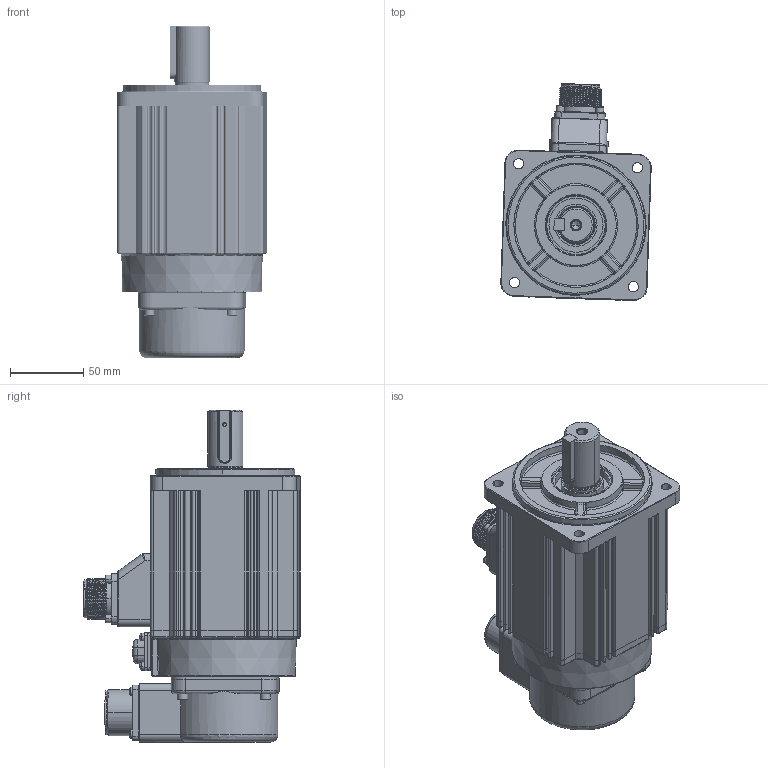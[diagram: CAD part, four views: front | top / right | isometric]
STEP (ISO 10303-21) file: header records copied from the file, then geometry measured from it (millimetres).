
FILE_DESCRIPTION((''),'2;1');
FILE_NAME('IMS20B-10M15C30C_00_ASM','2025-05-20T12:27:21',('admin'),(''),'CREO PARAMETRIC BY PTC INC, 2019080','CREO PARAMETRIC BY PTC INC, 2019080','');
FILE_SCHEMA(('CONFIG_CONTROL_DESIGN'));
Products named in the file (21): 100_JIKE_15C_L48_2_1; 50051-00115_1_1; 18-A6-18FLANGE-CUSTOM-3D_1_1; ISO4762-M3X30-8_8_1_1; 100_DZZJ_15C_ASM_2_ASM_1_ASM; 100_15C_ZHOU_BZ_1_1; 100_HDG_BZ_1_1; 100_ZZZJ_15C_BZ_ASM_1_ASM_1_ASM; BAOZHA_MIFENGDIAN_1_1; BAOZHA_CHUXIANHE_1_1; M3X8-0001_1_1; 100_FHZ_1_1; CMS3102A20-29PE9-A-3D_1_1; ISO7045-M3X16-4_8_1_1; ISO4762-M4X16-8_8_1_1; 100_FHZ_ASM_1_ASM_1_ASM; 13000_1_1; IMS20B-10M15C30C_BZ_ASM_2_ASM_1_ASM; IMS20B-10M15C30C_00_ASM_1_ASM; C; IMS20B-10M15C30C_00_ASM
Assembly tree (32 placements, depth 5):
  IMS20B-10M15C30C_00_ASM
    IMS20B-10M15C30C_00_ASM_1_ASM
      IMS20B-10M15C30C_BZ_ASM_2_ASM_1_ASM
        100_DZZJ_15C_ASM_2_ASM_1_ASM
          100_JIKE_15C_L48_2_1
          50051-00115_1_1
          18-A6-18FLANGE-CUSTOM-3D_1_1
          ISO4762-M3X30-8_8_1_1  x4
        100_ZZZJ_15C_BZ_ASM_1_ASM_1_ASM
          100_15C_ZHOU_BZ_1_1
          100_HDG_BZ_1_1
        BAOZHA_MIFENGDIAN_1_1
        BAOZHA_CHUXIANHE_1_1
        M3X8-0001_1_1  x4
        100_FHZ_ASM_1_ASM_1_ASM
          100_FHZ_1_1
          CMS3102A20-29PE9-A-3D_1_1
          ISO7045-M3X16-4_8_1_1  x4
          ISO4762-M4X16-8_8_1_1  x4
        13000_1_1
    C
Bounding box: 102.78 x 148.37 x 227 mm (x, y, z)
Volume: 1496172.8 mm3; surface area: 198179.1 mm2
Topology: 27 solids, 68 shells, 4591 faces, 12533 edges, 8198 vertices
Faces by surface type: plane 2099, cylinder 1105, extrusion 812, torus 213, cone 148, bspline 135, sphere 79
Entity records: 152649 total; most frequent: CARTESIAN_POINT 47911, ORIENTED_EDGE 22814, DIRECTION 19269, EDGE_CURVE 11465, VERTEX_POINT 7571, VECTOR 7491, LINE 6679, AXIS2_PLACEMENT_3D 5889
